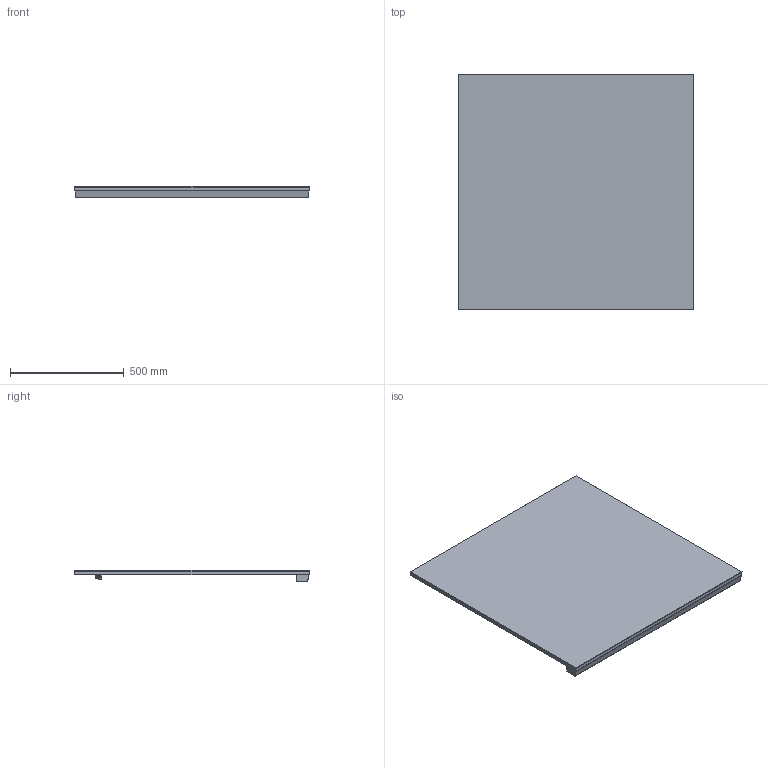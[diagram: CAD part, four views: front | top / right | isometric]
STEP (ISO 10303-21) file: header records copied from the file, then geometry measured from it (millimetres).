
FILE_DESCRIPTION(/* description */ (''),/* implementation_level */ '2;1');
FILE_NAME(/* name */ 'C:\Users\Giulia\Desktop\1818 - PABLO.stp',/* time_stamp */ '2016-01-18T09:07:11+01:00',/* author */ ('Giulia'),/* organization */ (''),/* preprocessor_version */ 'ST-DEVELOPER v16.1',/* originating_system */ 'Autodesk Inventor 2016',/* authorisation */ '');
FILE_SCHEMA (('AUTOMOTIVE_DESIGN { 1 0 10303 214 3 1 1 }'));
Length unit declared in the file: millimetre
Products named in the file (1): ST3818XX00_Shrinkwrap_1
Bounding box: 1030 x 1030 x 51 mm (x, y, z)
Volume: 5843860.9 mm3; surface area: 4716862.6 mm2
Topology: 3 solids, 4 shells, 260 faces, 610 edges, 372 vertices
Faces by surface type: plane 172, cylinder 88
Full cylindrical faces by diameter (mm): 4 x8
Entity records: 7641 total; most frequent: CARTESIAN_POINT 1311, DIRECTION 1284, ORIENTED_EDGE 1216, EDGE_CURVE 602, AXIS2_PLACEMENT_3D 433, LINE 418, VECTOR 418, VERTEX_POINT 372
